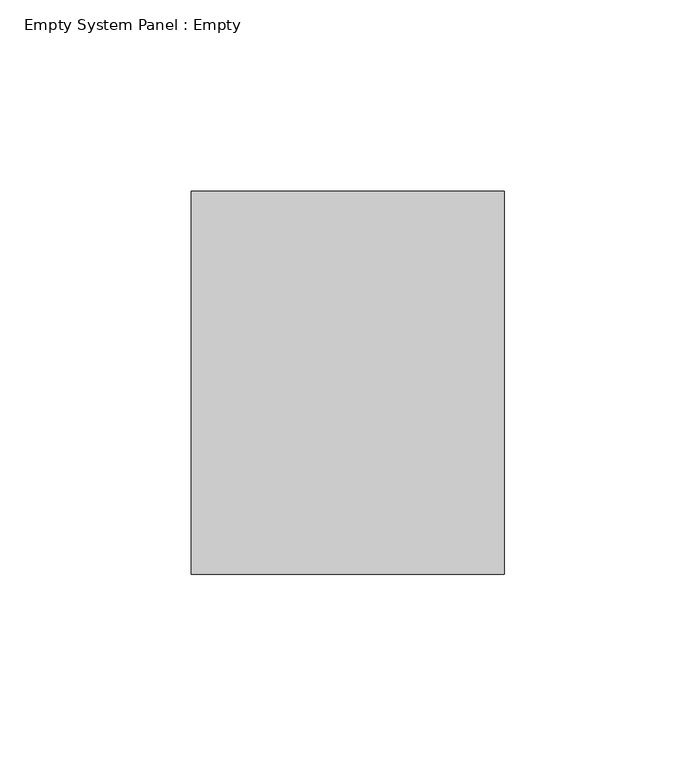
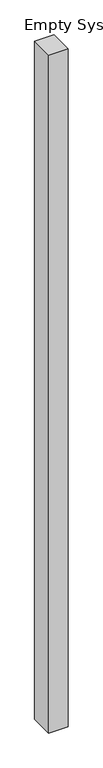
"""IFC4 building model written with IfcOpenShell, lengths in millimetres: plate geometry, Empty System Panel : Empty."""

from ifc_helpers import new_model, si_unit, origin, origin_with_axes, place, context, project, spatial, polyline, outline, extrude, source, transform, mapped, element, save


def empty_system_panel_empty_d67cafe6(model_context):
    return source(origin(), model_context, "Body", "SweptSolid", [
        extrude(outline(polyline([(40.8076118, -50.0), (-40.8076118, -50.0), (-40.8076118, 50.0), (40.8076118, 50.0), (40.8076118, -50.0)])), origin_with_axes(), (0.0, 0.0, 1.0), 3000.0),
    ])


if __name__ == "__main__":
    model = new_model("IFC4")
    model_context = context("Model", 3, world=origin())
    ifc_project = project(units=[si_unit("LENGTHUNIT", "METRE", prefix="MILLI")], contexts=[model_context])
    site = spatial("IfcSite", under=ifc_project)
    building = spatial("IfcBuilding", under=site)
    placement = place(None, origin())
    empty_system_panel_empty_shape = empty_system_panel_empty_d67cafe6(model_context)
    element("IfcPlate", 1, ObjectType="Empty System Panel : Empty", at=placement, inside=building, context=model_context, shape_type="MappedRepresentation", body=[
        mapped(empty_system_panel_empty_shape, transform((0.0, 0.0, 0.0), x_axis=(1.0, 0.0, 0.0), y_axis=(0.0, 1.0, 0.0), z_axis=(0.0, 0.0, 1.0))),
    ])
    save(model, "model.ifc")
